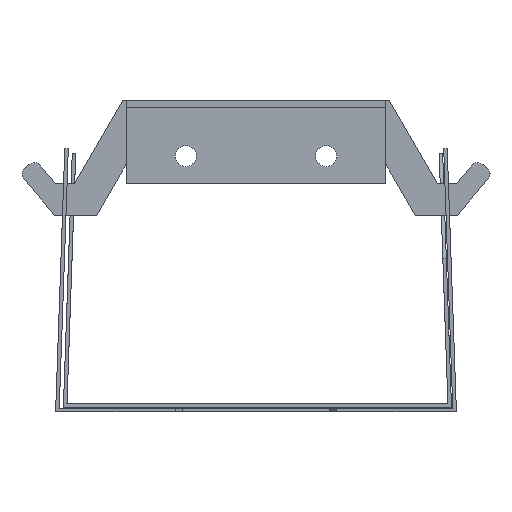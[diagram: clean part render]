
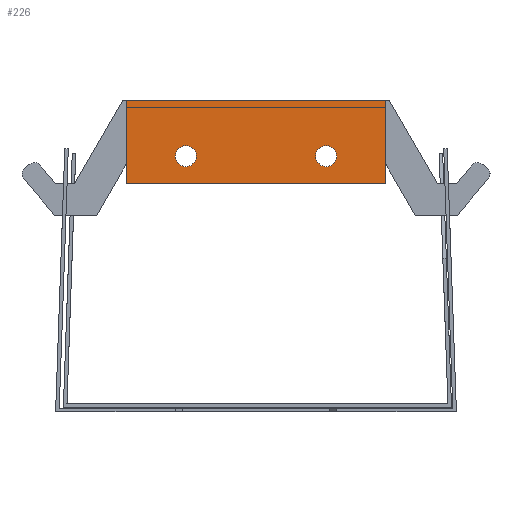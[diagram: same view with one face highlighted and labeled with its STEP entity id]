
A CAD part, left-side view. The second image highlights one B-rep face of the part: STEP entity #226.
In plain terms, the highlighted planar face has unit normal (-1, 0, 0).
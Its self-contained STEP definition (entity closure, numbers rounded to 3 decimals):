
#226 = ADVANCED_FACE( '', ( #789, #790, #791 ), #792, .T. );
#789 = FACE_BOUND( '', #1661, .T. );
#790 = FACE_BOUND( '', #1662, .T. );
#791 = FACE_OUTER_BOUND( '', #1663, .T. );
#792 = PLANE( '', #1664 );
#1661 = EDGE_LOOP( '', ( #3420, #3421 ) );
#1662 = EDGE_LOOP( '', ( #3422, #3423 ) );
#1663 = EDGE_LOOP( '', ( #3424, #3425, #3426, #3427 ) );
#1664 = AXIS2_PLACEMENT_3D( '', #3428, #3429, #3430 );
#3420 = ORIENTED_EDGE( '', *, *, #6063, .T. );
#3421 = ORIENTED_EDGE( '', *, *, #6127, .T. );
#3422 = ORIENTED_EDGE( '', *, *, #6059, .T. );
#3423 = ORIENTED_EDGE( '', *, *, #6129, .T. );
#3424 = ORIENTED_EDGE( '', *, *, #6297, .T. );
#3425 = ORIENTED_EDGE( '', *, *, #6308, .F. );
#3426 = ORIENTED_EDGE( '', *, *, #6309, .F. );
#3427 = ORIENTED_EDGE( '', *, *, #6306, .T. );
#3428 = CARTESIAN_POINT( '', ( -10., 37., 65.1 ) );
#3429 = DIRECTION( '', ( -1., 0., 0. ) );
#3430 = DIRECTION( '', ( 0., 0., -1. ) );
#6059 = EDGE_CURVE( '', #7608, #7605, #7609, .T. );
#6063 = EDGE_CURVE( '', #7616, #7613, #7617, .T. );
#6127 = EDGE_CURVE( '', #7613, #7616, #7722, .T. );
#6129 = EDGE_CURVE( '', #7605, #7608, #7724, .T. );
#6297 = EDGE_CURVE( '', #8004, #8002, #8005, .T. );
#6306 = EDGE_CURVE( '', #8019, #8004, #8020, .T. );
#6308 = EDGE_CURVE( '', #8022, #8002, #8023, .T. );
#6309 = EDGE_CURVE( '', #8019, #8022, #8024, .T. );
#7605 = VERTEX_POINT( '', #9790 );
#7608 = VERTEX_POINT( '', #9794 );
#7609 = CIRCLE( '', #9795, 3. );
#7613 = VERTEX_POINT( '', #9800 );
#7616 = VERTEX_POINT( '', #9804 );
#7617 = CIRCLE( '', #9805, 3. );
#7722 = CIRCLE( '', #9931, 3. );
#7724 = CIRCLE( '', #9933, 3. );
#8002 = VERTEX_POINT( '', #10325 );
#8004 = VERTEX_POINT( '', #10328 );
#8005 = LINE( '', #10329, #10330 );
#8019 = VERTEX_POINT( '', #10352 );
#8020 = LINE( '', #10353, #10354 );
#8022 = VERTEX_POINT( '', #10357 );
#8023 = LINE( '', #10358, #10359 );
#8024 = LINE( '', #10360, #10361 );
#9790 = CARTESIAN_POINT( '', ( -10., 20., 70. ) );
#9794 = CARTESIAN_POINT( '', ( -10., 20., 76. ) );
#9795 = AXIS2_PLACEMENT_3D( '', #12237, #12238, #12239 );
#9800 = CARTESIAN_POINT( '', ( -10., -20., 70. ) );
#9804 = CARTESIAN_POINT( '', ( -10., -20., 76. ) );
#9805 = AXIS2_PLACEMENT_3D( '', #12245, #12246, #12247 );
#9931 = AXIS2_PLACEMENT_3D( '', #12395, #12396, #12397 );
#9933 = AXIS2_PLACEMENT_3D( '', #12401, #12402, #12403 );
#10325 = CARTESIAN_POINT( '', ( -10., -37., 89. ) );
#10328 = CARTESIAN_POINT( '', ( -10., -37., 65.1 ) );
#10329 = CARTESIAN_POINT( '', ( -10., -37., 65.1 ) );
#10330 = VECTOR( '', #12675, 1. );
#10352 = CARTESIAN_POINT( '', ( -10., 37., 65.1 ) );
#10353 = CARTESIAN_POINT( '', ( -10., 37., 65.1 ) );
#10354 = VECTOR( '', #12684, 1. );
#10357 = CARTESIAN_POINT( '', ( -10., 37., 89. ) );
#10358 = CARTESIAN_POINT( '', ( -10., 37., 89. ) );
#10359 = VECTOR( '', #12686, 1. );
#10360 = CARTESIAN_POINT( '', ( -10., 37., 65.1 ) );
#10361 = VECTOR( '', #12687, 1. );
#12237 = CARTESIAN_POINT( '', ( -10., 20., 73. ) );
#12238 = DIRECTION( '', ( 1., 0., 0. ) );
#12239 = DIRECTION( '', ( 0., 0., -1. ) );
#12245 = CARTESIAN_POINT( '', ( -10., -20., 73. ) );
#12246 = DIRECTION( '', ( 1., 0., 0. ) );
#12247 = DIRECTION( '', ( 0., 0., -1. ) );
#12395 = CARTESIAN_POINT( '', ( -10., -20., 73. ) );
#12396 = DIRECTION( '', ( 1., 0., 0. ) );
#12397 = DIRECTION( '', ( 0., 0., -1. ) );
#12401 = CARTESIAN_POINT( '', ( -10., 20., 73. ) );
#12402 = DIRECTION( '', ( 1., 0., 0. ) );
#12403 = DIRECTION( '', ( 0., 0., -1. ) );
#12675 = DIRECTION( '', ( 0., 0., 1. ) );
#12684 = DIRECTION( '', ( 0., -1., 0. ) );
#12686 = DIRECTION( '', ( 0., -1., 0. ) );
#12687 = DIRECTION( '', ( 0., 0., 1. ) );
